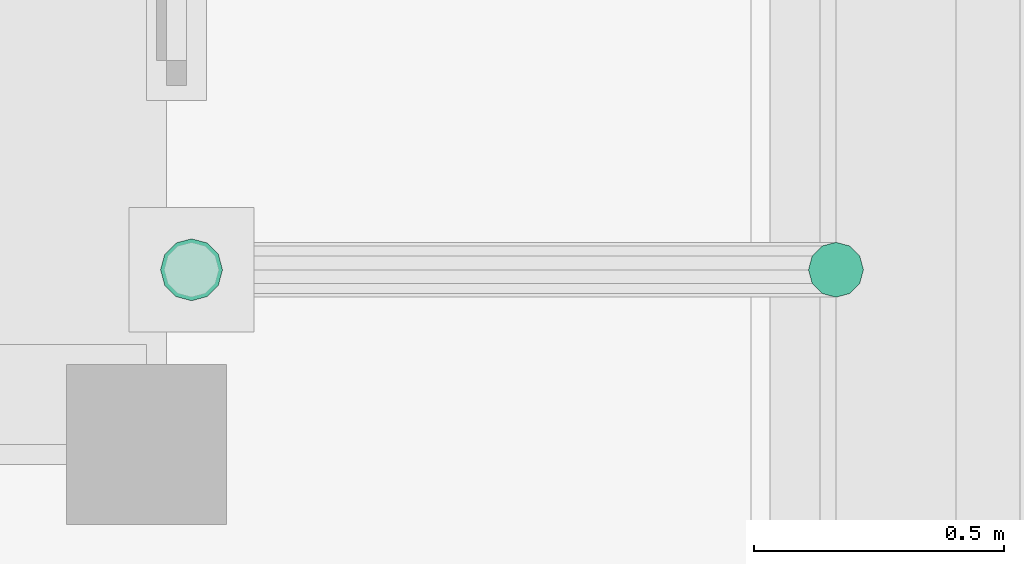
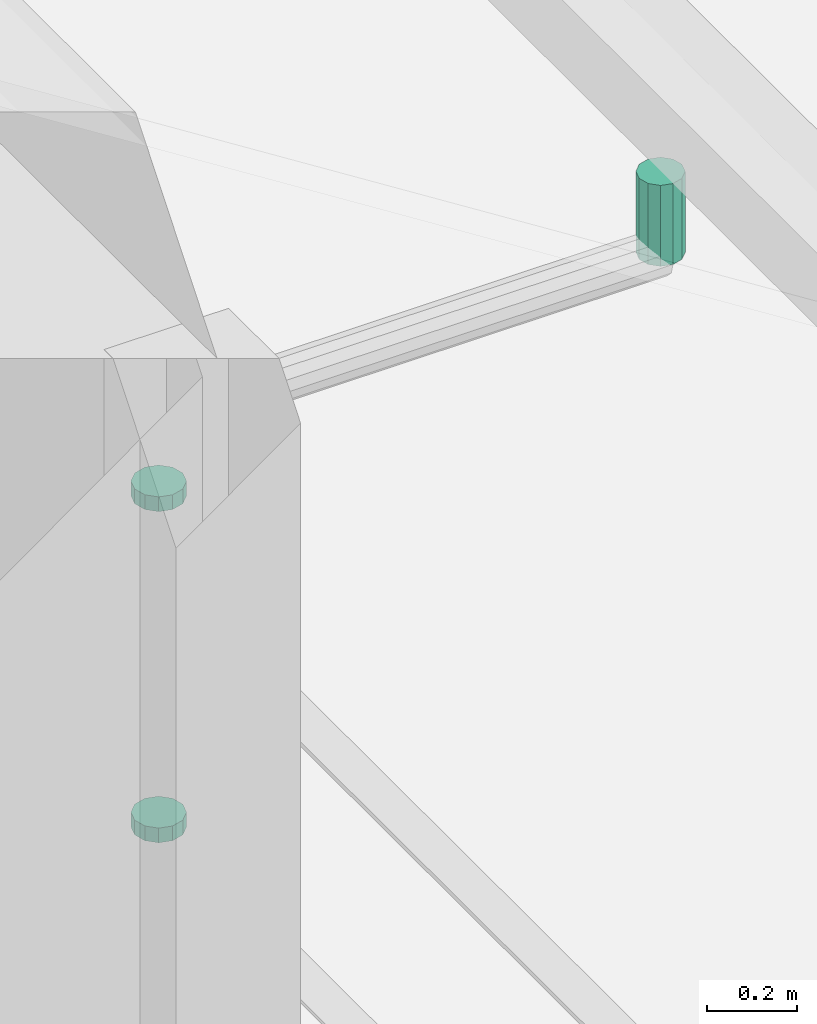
# One storey, part 123 of 177: 3 pipe segments.
"""IFC4 building model written with IfcOpenShell, lengths in metres."""

from ifc_helpers import new_model, si_unit, origin, origin_with_axes, place, context, subcontext, project, spatial, triangles, element, save


model = new_model("IFC4")

# Units and contexts
model_context = context("Model", 3, precision=1e-05, world=origin_with_axes())
body_context = subcontext(model_context, "Body", "Model", "MODEL_VIEW")
ifc_project = project(units=[si_unit("LENGTHUNIT", "METRE"), si_unit("AREAUNIT", "SQUARE_METRE"), si_unit("VOLUMEUNIT", "CUBIC_METRE"), si_unit("PLANEANGLEUNIT", "RADIAN")], contexts=[model_context])

# Site, building, storey
site_placement = place(None, origin_with_axes())
site = spatial("IfcSite", under=ifc_project, at=site_placement, Name="Predio Los Mangos - Morales, San Martín", CompositionType="ELEMENT")
building_placement = place(site_placement, origin())
building = spatial("IfcBuilding", under=site, at=building_placement, Name="Hogar de Refugio Temporal", CompositionType="ELEMENT")
storey_placement = place(building_placement, origin())
storey = spatial("IfcBuildingStorey", under=building, at=storey_placement, Name="NIVEL 1 (NPT +0.00)", CompositionType="ELEMENT", Elevation=0.0)

# Pipe segments
pipe_segment_1_placement = place(storey_placement, origin())
element("IfcPipeSegment", 1, at=pipe_segment_1_placement, inside=storey, Name="montante_boquilla", ObjectType="Montante PVC 4\"", PredefinedType="RIGIDSEGMENT", context=body_context, shape_type="Tessellation", body=[
    triangles([(60.98, 58.305, 3.13), (60.98, 58.305, 2.91), (60.9525, 58.2976, 3.13), (60.9525, 58.2976, 2.91), (60.9324, 58.2775, 3.13), (60.9324, 58.2775, 2.91), (60.925, 58.25, 3.13), (60.925, 58.25, 2.91), (60.9324, 58.2225, 3.13), (60.9324, 58.2225, 2.91), (60.9525, 58.2024, 3.13), (60.9525, 58.2024, 2.91), (60.98, 58.195, 3.13), (60.98, 58.195, 2.91), (61.0075, 58.2024, 3.13), (61.0075, 58.2024, 2.91), (61.0276, 58.2225, 3.13), (61.0276, 58.2225, 2.91), (61.035, 58.25, 3.13), (61.035, 58.25, 2.91), (61.0276, 58.2775, 3.13), (61.0276, 58.2775, 2.91), (61.0075, 58.2976, 3.13), (61.0075, 58.2976, 2.91)], [[1, 2, 4], [1, 4, 3], [3, 4, 6], [3, 6, 5], [5, 6, 8], [5, 8, 7], [7, 8, 10], [7, 10, 9], [9, 10, 12], [9, 12, 11], [11, 12, 14], [11, 14, 13], [13, 14, 16], [13, 16, 15], [15, 16, 18], [15, 18, 17], [17, 18, 20], [17, 20, 19], [19, 20, 22], [19, 22, 21], [6, 4, 2], [2, 24, 22], [22, 20, 18], [18, 16, 14], [14, 12, 10], [10, 8, 6], [6, 2, 22], [22, 18, 14], [14, 10, 6], [22, 14, 6], [21, 22, 24], [21, 24, 23], [23, 24, 2], [23, 2, 1], [23, 1, 3], [3, 5, 7], [7, 9, 11], [11, 13, 15], [15, 17, 19], [19, 21, 23], [23, 3, 7], [7, 11, 15], [15, 19, 23], [7, 15, 23]]),
])
pipe_segment_2_placement = place(storey_placement, origin())
element("IfcPipeSegment", 2, at=pipe_segment_2_placement, inside=storey, Name="montante_abrazadera", ObjectType="Montante PVC 4\"", PredefinedType="RIGIDSEGMENT", context=body_context, shape_type="Tessellation", body=[
    triangles([(59.69, 58.188, 1.8), (59.69, 58.188, 1.84), (59.659, 58.1963, 1.8), (59.659, 58.1963, 1.84), (59.6363, 58.219, 1.8), (59.6363, 58.219, 1.84), (59.628, 58.25, 1.8), (59.628, 58.25, 1.84), (59.6363, 58.281, 1.8), (59.6363, 58.281, 1.84), (59.659, 58.3037, 1.8), (59.659, 58.3037, 1.84), (59.69, 58.312, 1.8), (59.69, 58.312, 1.84), (59.721, 58.3037, 1.8), (59.721, 58.3037, 1.84), (59.7437, 58.281, 1.8), (59.7437, 58.281, 1.84), (59.752, 58.25, 1.8), (59.752, 58.25, 1.84), (59.7437, 58.219, 1.8), (59.7437, 58.219, 1.84), (59.721, 58.1963, 1.8), (59.721, 58.1963, 1.84)], [[1, 2, 4], [1, 4, 3], [3, 4, 6], [3, 6, 5], [5, 6, 8], [5, 8, 7], [7, 8, 10], [7, 10, 9], [9, 10, 12], [9, 12, 11], [11, 12, 14], [11, 14, 13], [13, 14, 16], [13, 16, 15], [15, 16, 18], [15, 18, 17], [17, 18, 20], [17, 20, 19], [19, 20, 22], [19, 22, 21], [6, 4, 2], [2, 24, 22], [22, 20, 18], [18, 16, 14], [14, 12, 10], [10, 8, 6], [6, 2, 22], [22, 18, 14], [14, 10, 6], [22, 14, 6], [21, 22, 24], [21, 24, 23], [23, 24, 2], [23, 2, 1], [23, 1, 3], [3, 5, 7], [7, 9, 11], [11, 13, 15], [15, 17, 19], [19, 21, 23], [23, 3, 7], [7, 11, 15], [15, 19, 23], [7, 15, 23]]),
])
pipe_segment_3_placement = place(storey_placement, origin())
element("IfcPipeSegment", 3, at=pipe_segment_3_placement, inside=storey, Name="montante_abrazadera", ObjectType="Montante PVC 4\"", PredefinedType="RIGIDSEGMENT", context=body_context, shape_type="Tessellation", body=[
    triangles([(59.69, 58.188, 2.7), (59.69, 58.188, 2.74), (59.659, 58.1963, 2.7), (59.659, 58.1963, 2.74), (59.6363, 58.219, 2.7), (59.6363, 58.219, 2.74), (59.628, 58.25, 2.7), (59.628, 58.25, 2.74), (59.6363, 58.281, 2.7), (59.6363, 58.281, 2.74), (59.659, 58.3037, 2.7), (59.659, 58.3037, 2.74), (59.69, 58.312, 2.7), (59.69, 58.312, 2.74), (59.721, 58.3037, 2.7), (59.721, 58.3037, 2.74), (59.7437, 58.281, 2.7), (59.7437, 58.281, 2.74), (59.752, 58.25, 2.7), (59.752, 58.25, 2.74), (59.7437, 58.219, 2.7), (59.7437, 58.219, 2.74), (59.721, 58.1963, 2.7), (59.721, 58.1963, 2.74)], [[1, 2, 4], [1, 4, 3], [3, 4, 6], [3, 6, 5], [5, 6, 8], [5, 8, 7], [7, 8, 10], [7, 10, 9], [9, 10, 12], [9, 12, 11], [11, 12, 14], [11, 14, 13], [13, 14, 16], [13, 16, 15], [15, 16, 18], [15, 18, 17], [17, 18, 20], [17, 20, 19], [19, 20, 22], [19, 22, 21], [6, 4, 2], [2, 24, 22], [22, 20, 18], [18, 16, 14], [14, 12, 10], [10, 8, 6], [6, 2, 22], [22, 18, 14], [14, 10, 6], [22, 14, 6], [21, 22, 24], [21, 24, 23], [23, 24, 2], [23, 2, 1], [23, 1, 3], [3, 5, 7], [7, 9, 11], [11, 13, 15], [15, 17, 19], [19, 21, 23], [23, 3, 7], [7, 11, 15], [15, 19, 23], [7, 15, 23]]),
])

save(model, "model.ifc")
